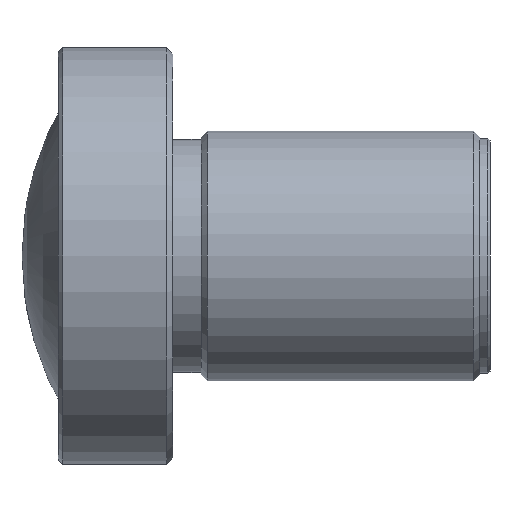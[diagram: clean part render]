
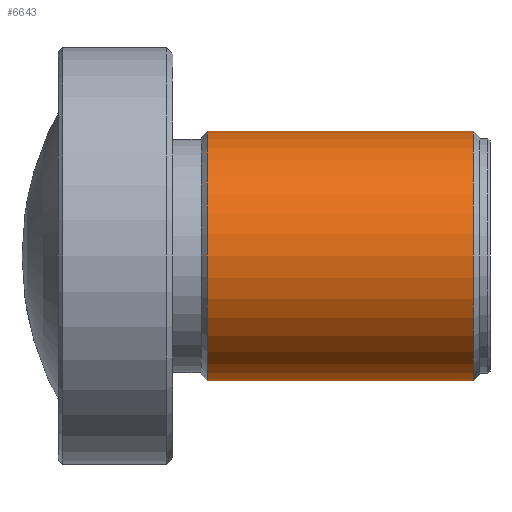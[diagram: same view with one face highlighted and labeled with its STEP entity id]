
A CAD part, front view. The second image highlights one B-rep face of the part: STEP entity #6643.
In plain terms, the highlighted cylindrical face has radius 6 mm (diameter 12 mm), a partial arc.
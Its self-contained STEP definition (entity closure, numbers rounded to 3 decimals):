
#2438=CARTESIAN_POINT('',(8.901,0.,0.));
#2439=DIRECTION('',(-1.,0.,0.));
#2440=DIRECTION('',(0.,0.,-1.));
#2441=AXIS2_PLACEMENT_3D('',#2438,#2439,#2440);
#2443=DIRECTION('',(-1.,0.,0.));
#2444=VECTOR('',#2443,12.777);
#2445=CARTESIAN_POINT('',(21.677,0.,-6.));
#2446=LINE('',#2445,#2444);
#2447=DIRECTION('',(-1.,0.,0.));
#2448=VECTOR('',#2447,12.777);
#2449=CARTESIAN_POINT('',(21.677,0.,6.));
#2450=LINE('',#2449,#2448);
#2451=CARTESIAN_POINT('',(21.677,0.,0.));
#2452=DIRECTION('',(-1.,0.,0.));
#2453=DIRECTION('',(0.,0.,-1.));
#2454=AXIS2_PLACEMENT_3D('',#2451,#2452,#2453);
#5338=CARTESIAN_POINT('',(21.677,0.,-6.));
#5340=VERTEX_POINT('',#5338);
#5341=CARTESIAN_POINT('',(8.901,0.,-6.));
#5342=VERTEX_POINT('',#5341);
#5392=CARTESIAN_POINT('',(21.677,0.,6.));
#5394=VERTEX_POINT('',#5392);
#5395=CARTESIAN_POINT('',(8.901,0.,6.));
#5396=VERTEX_POINT('',#5395);
#6629=CARTESIAN_POINT('',(-1.124,0.,0.));
#6630=DIRECTION('',(1.,0.,0.));
#6631=DIRECTION('',(0.,0.,1.));
#6632=AXIS2_PLACEMENT_3D('',#6629,#6630,#6631);
#6633=CYLINDRICAL_SURFACE('',#6632,6.);
#6635=ORIENTED_EDGE('',*,*,#6634,.T.);
#6636=ORIENTED_EDGE('',*,*,#6624,.T.);
#6638=ORIENTED_EDGE('',*,*,#6637,.F.);
#6640=ORIENTED_EDGE('',*,*,#6639,.F.);
#6641=EDGE_LOOP('',(#6635,#6636,#6638,#6640));
#6642=FACE_OUTER_BOUND('',#6641,.F.);
#6643=ADVANCED_FACE('',(#6642),#6633,.T.);
#2442=CIRCLE('',#2441,6.);
#2455=CIRCLE('',#2454,6.);
#6624=EDGE_CURVE('',#5342,#5396,#2442,.T.);
#6634=EDGE_CURVE('',#5340,#5342,#2446,.T.);
#6637=EDGE_CURVE('',#5394,#5396,#2450,.T.);
#6639=EDGE_CURVE('',#5340,#5394,#2455,.T.);
